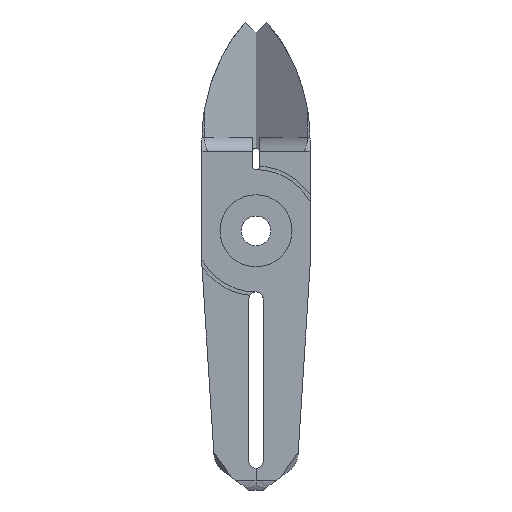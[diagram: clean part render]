
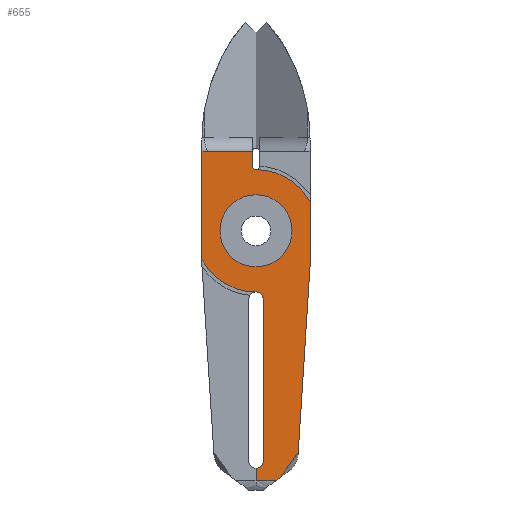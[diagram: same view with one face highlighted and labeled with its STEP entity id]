
A CAD part, front view. The second image highlights one B-rep face of the part: STEP entity #655.
In plain terms, the highlighted planar face has unit normal (0, -1, 0).
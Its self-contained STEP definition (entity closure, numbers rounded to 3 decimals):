
#13 = VECTOR ( 'NONE', #362, 1000. ) ;
#54 = VECTOR ( 'NONE', #2999, 1000. ) ;
#78 = LINE ( 'NONE', #746, #662 ) ;
#99 = EDGE_CURVE ( 'NONE', #2656, #2037, #1261, .T. ) ;
#110 = DIRECTION ( 'NONE',  ( 1., 0., 0. ) ) ;
#116 = VECTOR ( 'NONE', #1255, 1000. ) ;
#122 = CARTESIAN_POINT ( 'NONE',  ( -7.5, 0., 11. ) ) ;
#124 = AXIS2_PLACEMENT_3D ( 'NONE', #473, #2208, #727 ) ;
#134 = LINE ( 'NONE', #2443, #1448 ) ;
#245 = EDGE_CURVE ( 'NONE', #689, #531, #1191, .T. ) ;
#247 = VECTOR ( 'NONE', #2065, 1000. ) ;
#262 = DIRECTION ( 'NONE',  ( 1., 0., 0. ) ) ;
#264 = VERTEX_POINT ( 'NONE', #572 ) ;
#284 = AXIS2_PLACEMENT_3D ( 'NONE', #1091, #1595, #110 ) ;
#287 = CARTESIAN_POINT ( 'NONE',  ( -0.5, 0., 11. ) ) ;
#297 = AXIS2_PLACEMENT_3D ( 'NONE', #2015, #536, #2265 ) ;
#319 = CARTESIAN_POINT ( 'NONE',  ( -7.5, 0., -4. ) ) ;
#362 = DIRECTION ( 'NONE',  ( 1., 0., 0. ) ) ;
#378 = VERTEX_POINT ( 'NONE', #2398 ) ;
#397 = EDGE_CURVE ( 'NONE', #1847, #264, #1683, .T. ) ;
#404 = LINE ( 'NONE', #1058, #2215 ) ;
#437 = CIRCLE ( 'NONE', #741, 8.5 ) ;
#454 = CARTESIAN_POINT ( 'NONE',  ( -7.5, 0., -11.839 ) ) ;
#473 = CARTESIAN_POINT ( 'NONE',  ( 0., 0., -32. ) ) ;
#475 = VERTEX_POINT ( 'NONE', #1008 ) ;
#480 = LINE ( 'NONE', #2312, #1718 ) ;
#483 = ORIENTED_EDGE ( 'NONE', *, *, #1702, .F. ) ;
#531 = VERTEX_POINT ( 'NONE', #319 ) ;
#535 = EDGE_CURVE ( 'NONE', #2321, #2989, #480, .T. ) ;
#536 = DIRECTION ( 'NONE',  ( 0., -1., 0. ) ) ;
#572 = CARTESIAN_POINT ( 'NONE',  ( 0., 0., 8.5 ) ) ;
#655 = ADVANCED_FACE ( 'NONE', ( #846, #2158 ), #2577, .T. ) ;
#657 = CIRCLE ( 'NONE', #2097, 5. ) ;
#662 = VECTOR ( 'NONE', #262, 1000. ) ;
#663 = VERTEX_POINT ( 'NONE', #2088 ) ;
#689 = VERTEX_POINT ( 'NONE', #122 ) ;
#704 = EDGE_CURVE ( 'NONE', #1457, #2740, #755, .T. ) ;
#711 = DIRECTION ( 'NONE',  ( 0., 0., 1. ) ) ;
#724 = CIRCLE ( 'NONE', #1506, 5. ) ;
#727 = DIRECTION ( 'NONE',  ( 0., 0., 1. ) ) ;
#741 = AXIS2_PLACEMENT_3D ( 'NONE', #2295, #815, #2547 ) ;
#746 = CARTESIAN_POINT ( 'NONE',  ( -7.002, 0., 11. ) ) ;
#749 = CARTESIAN_POINT ( 'NONE',  ( 1., 0., -11.839 ) ) ;
#755 = LINE ( 'NONE', #2345, #13 ) ;
#778 = CARTESIAN_POINT ( 'NONE',  ( 3.399, 0., -34.232 ) ) ;
#800 = CARTESIAN_POINT ( 'NONE',  ( 2.812, 0., -34.665 ) ) ;
#815 = DIRECTION ( 'NONE',  ( 0., -1., 0. ) ) ;
#834 = DIRECTION ( 'NONE',  ( -1., 0., 0. ) ) ;
#846 = FACE_BOUND ( 'NONE', #3048, .T. ) ;
#1008 = CARTESIAN_POINT ( 'NONE',  ( 0., 0., 5. ) ) ;
#1058 = CARTESIAN_POINT ( 'NONE',  ( 6.52, 0., -20.398 ) ) ;
#1091 = CARTESIAN_POINT ( 'NONE',  ( -7.5, 0., -34.677 ) ) ;
#1168 = CIRCLE ( 'NONE', #124, 1. ) ;
#1191 = LINE ( 'NONE', #454, #1918 ) ;
#1192 = CARTESIAN_POINT ( 'NONE',  ( 0., 0., 0. ) ) ;
#1197 = DIRECTION ( 'NONE',  ( 0., -1., 0. ) ) ;
#1227 = CARTESIAN_POINT ( 'NONE',  ( 0., 0., -5. ) ) ;
#1240 = CARTESIAN_POINT ( 'NONE',  ( 0., 0., -9.5 ) ) ;
#1242 = ORIENTED_EDGE ( 'NONE', *, *, #2983, .T. ) ;
#1244 = ORIENTED_EDGE ( 'NONE', *, *, #2584, .F. ) ;
#1255 = DIRECTION ( 'NONE',  ( 0., 0., -1. ) ) ;
#1261 = CIRCLE ( 'NONE', #1470, 1. ) ;
#1277 = LINE ( 'NONE', #778, #1925 ) ;
#1335 = DIRECTION ( 'NONE',  ( 0., 0., 1. ) ) ;
#1391 = EDGE_CURVE ( 'NONE', #378, #264, #2685, .T. ) ;
#1441 = DIRECTION ( 'NONE',  ( 0., 0., -1. ) ) ;
#1448 = VECTOR ( 'NONE', #711, 1000. ) ;
#1457 = VERTEX_POINT ( 'NONE', #3033 ) ;
#1470 = AXIS2_PLACEMENT_3D ( 'NONE', #1240, #1936, #2730 ) ;
#1506 = AXIS2_PLACEMENT_3D ( 'NONE', #1192, #2925, #1441 ) ;
#1580 = ORIENTED_EDGE ( 'NONE', *, *, #2660, .F. ) ;
#1595 = DIRECTION ( 'NONE',  ( 0., -1., 0. ) ) ;
#1616 = ORIENTED_EDGE ( 'NONE', *, *, #99, .F. ) ;
#1683 = CIRCLE ( 'NONE', #2574, 0.5 ) ;
#1702 = EDGE_CURVE ( 'NONE', #689, #2989, #78, .T. ) ;
#1718 = VECTOR ( 'NONE', #834, 1000. ) ;
#1762 = VERTEX_POINT ( 'NONE', #2274 ) ;
#1805 = EDGE_CURVE ( 'NONE', #531, #2037, #437, .T. ) ;
#1829 = CARTESIAN_POINT ( 'NONE',  ( 0., 0., -33. ) ) ;
#1831 = ORIENTED_EDGE ( 'NONE', *, *, #2287, .T. ) ;
#1839 = ORIENTED_EDGE ( 'NONE', *, *, #2104, .T. ) ;
#1847 = VERTEX_POINT ( 'NONE', #3205 ) ;
#1856 = VECTOR ( 'NONE', #2280, 1000. ) ;
#1891 = ORIENTED_EDGE ( 'NONE', *, *, #245, .T. ) ;
#1902 = ORIENTED_EDGE ( 'NONE', *, *, #397, .F. ) ;
#1918 = VECTOR ( 'NONE', #1938, 1000. ) ;
#1925 = VECTOR ( 'NONE', #2256, 1000. ) ;
#1928 = ORIENTED_EDGE ( 'NONE', *, *, #1391, .T. ) ;
#1931 = EDGE_CURVE ( 'NONE', #1457, #2128, #2778, .T. ) ;
#1936 = DIRECTION ( 'NONE',  ( 0., -1., 0. ) ) ;
#1938 = DIRECTION ( 'NONE',  ( 0., 0., -1. ) ) ;
#2015 = CARTESIAN_POINT ( 'NONE',  ( 0., 0., 0. ) ) ;
#2030 = ORIENTED_EDGE ( 'NONE', *, *, #535, .T. ) ;
#2037 = VERTEX_POINT ( 'NONE', #2043 ) ;
#2038 = ORIENTED_EDGE ( 'NONE', *, *, #2752, .T. ) ;
#2043 = CARTESIAN_POINT ( 'NONE',  ( 0., 0., -8.5 ) ) ;
#2062 = EDGE_CURVE ( 'NONE', #2152, #663, #404, .T. ) ;
#2065 = DIRECTION ( 'NONE',  ( 0., 0., 1. ) ) ;
#2088 = CARTESIAN_POINT ( 'NONE',  ( 7.5, 0., -5. ) ) ;
#2097 = AXIS2_PLACEMENT_3D ( 'NONE', #2686, #1197, #2929 ) ;
#2104 = EDGE_CURVE ( 'NONE', #663, #378, #2387, .T. ) ;
#2128 = VERTEX_POINT ( 'NONE', #1829 ) ;
#2152 = VERTEX_POINT ( 'NONE', #2703 ) ;
#2158 = FACE_OUTER_BOUND ( 'NONE', #2753, .T. ) ;
#2165 = LINE ( 'NONE', #749, #116 ) ;
#2208 = DIRECTION ( 'NONE',  ( 0., -1., 0. ) ) ;
#2215 = VECTOR ( 'NONE', #2555, 1000. ) ;
#2226 = CARTESIAN_POINT ( 'NONE',  ( 2.795, 0., -34.677 ) ) ;
#2256 = DIRECTION ( 'NONE',  ( 0.579, 0., 0.815 ) ) ;
#2265 = DIRECTION ( 'NONE',  ( 0., 0., 1. ) ) ;
#2274 = CARTESIAN_POINT ( 'NONE',  ( 3.399, 0., -34.232 ) ) ;
#2280 = DIRECTION ( 'NONE',  ( -0.805, 0., -0.593 ) ) ;
#2287 = EDGE_CURVE ( 'NONE', #1762, #2152, #1277, .T. ) ;
#2295 = CARTESIAN_POINT ( 'NONE',  ( 0., 0., 0. ) ) ;
#2312 = CARTESIAN_POINT ( 'NONE',  ( 0., 0., 11. ) ) ;
#2316 = CARTESIAN_POINT ( 'NONE',  ( 7.5, 0., -11.839 ) ) ;
#2321 = VERTEX_POINT ( 'NONE', #287 ) ;
#2345 = CARTESIAN_POINT ( 'NONE',  ( 0., 0., -34.677 ) ) ;
#2368 = EDGE_CURVE ( 'NONE', #1762, #2740, #2432, .T. ) ;
#2387 = LINE ( 'NONE', #2316, #247 ) ;
#2398 = CARTESIAN_POINT ( 'NONE',  ( 7.5, 0., 4. ) ) ;
#2410 = CARTESIAN_POINT ( 'NONE',  ( 0., 0., 9. ) ) ;
#2425 = ORIENTED_EDGE ( 'NONE', *, *, #2368, .F. ) ;
#2432 = LINE ( 'NONE', #800, #1856 ) ;
#2443 = CARTESIAN_POINT ( 'NONE',  ( -0.5, 0., -11.839 ) ) ;
#2453 = ORIENTED_EDGE ( 'NONE', *, *, #704, .T. ) ;
#2547 = DIRECTION ( 'NONE',  ( 0., 0., 1. ) ) ;
#2555 = DIRECTION ( 'NONE',  ( 0.064, 0., 0.998 ) ) ;
#2574 = AXIS2_PLACEMENT_3D ( 'NONE', #2410, #2831, #1335 ) ;
#2577 = PLANE ( 'NONE',  #284 ) ;
#2584 = EDGE_CURVE ( 'NONE', #3008, #475, #724, .T. ) ;
#2656 = VERTEX_POINT ( 'NONE', #2957 ) ;
#2660 = EDGE_CURVE ( 'NONE', #2128, #2874, #1168, .T. ) ;
#2685 = CIRCLE ( 'NONE', #297, 8.5 ) ;
#2686 = CARTESIAN_POINT ( 'NONE',  ( 0., 0., 0. ) ) ;
#2703 = CARTESIAN_POINT ( 'NONE',  ( 5.86, 0., -30.768 ) ) ;
#2730 = DIRECTION ( 'NONE',  ( 0., 0., 1. ) ) ;
#2740 = VERTEX_POINT ( 'NONE', #2226 ) ;
#2752 = EDGE_CURVE ( 'NONE', #2656, #2874, #2165, .T. ) ;
#2753 = EDGE_LOOP ( 'NONE', ( #3112, #1616, #2038, #1580, #3214, #2453, #2425, #1831, #2754, #1839, #1928, #1902, #1242, #2030, #483, #1891 ) ) ;
#2754 = ORIENTED_EDGE ( 'NONE', *, *, #2062, .T. ) ;
#2760 = CARTESIAN_POINT ( 'NONE',  ( 0., 0., -34.5 ) ) ;
#2778 = LINE ( 'NONE', #2760, #54 ) ;
#2831 = DIRECTION ( 'NONE',  ( 0., -1., 0. ) ) ;
#2874 = VERTEX_POINT ( 'NONE', #3144 ) ;
#2925 = DIRECTION ( 'NONE',  ( 0., -1., 0. ) ) ;
#2926 = EDGE_CURVE ( 'NONE', #475, #3008, #657, .T. ) ;
#2929 = DIRECTION ( 'NONE',  ( 0., 0., -1. ) ) ;
#2951 = CARTESIAN_POINT ( 'NONE',  ( -6.51, 0., 11. ) ) ;
#2957 = CARTESIAN_POINT ( 'NONE',  ( 1., 0., -9.5 ) ) ;
#2983 = EDGE_CURVE ( 'NONE', #1847, #2321, #134, .T. ) ;
#2989 = VERTEX_POINT ( 'NONE', #2951 ) ;
#2999 = DIRECTION ( 'NONE',  ( 0., 0., 1. ) ) ;
#3008 = VERTEX_POINT ( 'NONE', #1227 ) ;
#3033 = CARTESIAN_POINT ( 'NONE',  ( 0., 0., -34.677 ) ) ;
#3048 = EDGE_LOOP ( 'NONE', ( #1244, #3229 ) ) ;
#3112 = ORIENTED_EDGE ( 'NONE', *, *, #1805, .T. ) ;
#3144 = CARTESIAN_POINT ( 'NONE',  ( 1., 0., -32. ) ) ;
#3205 = CARTESIAN_POINT ( 'NONE',  ( -0.5, 0., 9. ) ) ;
#3214 = ORIENTED_EDGE ( 'NONE', *, *, #1931, .F. ) ;
#3229 = ORIENTED_EDGE ( 'NONE', *, *, #2926, .F. ) ;
